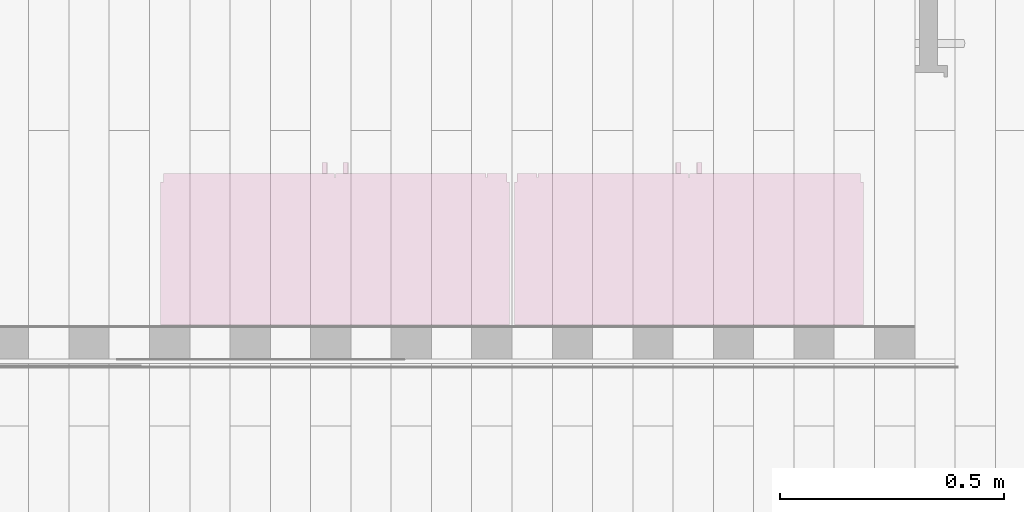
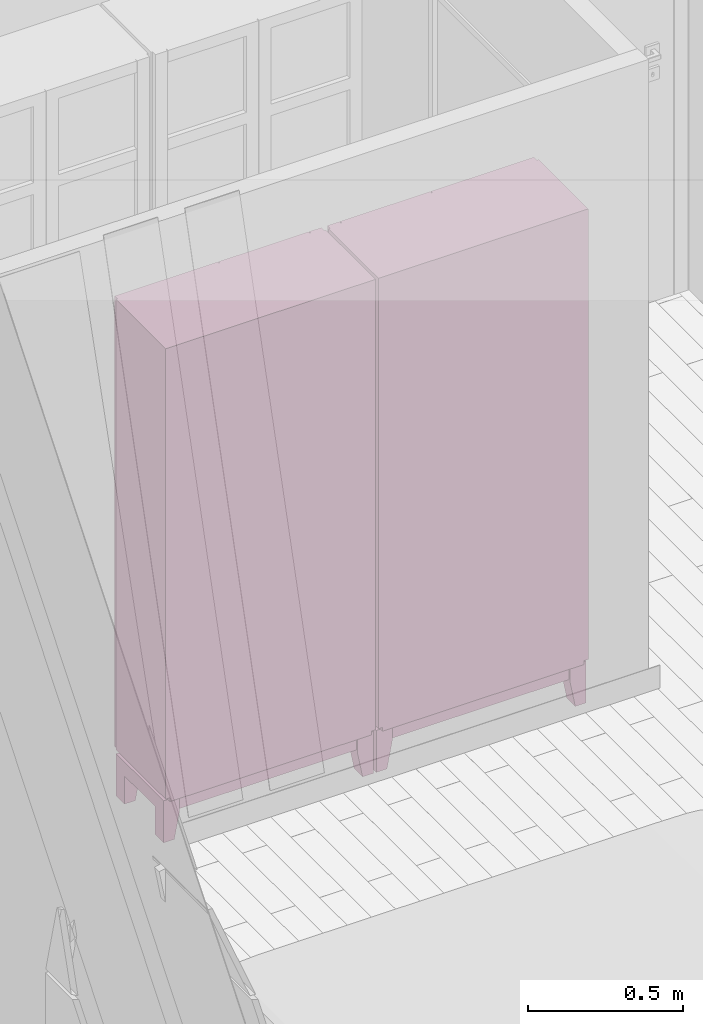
# One storey, part 56 of 61: 2 furnishings.
"""IFC2X3 building model written with IfcOpenShell, lengths in metres."""

from ifc_helpers import new_model, entity, si_unit, converted_unit, derived_unit, direction, frame, frame_2d, origin, origin_2d_with_axis, place, context, subcontext, project, spatial, polyline, rectangle, circle, outline, extrude, source, transform, mapped, material, material_list, type_object, type_shapes, element, save


model = new_model("IFC2X3")

# Units and contexts
model_context = context("Model", 3, precision=1e-05, world=origin(), true_north=direction((6.12303176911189e-17, 1.0)))
body_context = subcontext(model_context, "Body", "Model", "MODEL_VIEW")
ifc_project = project(units=[si_unit("LENGTHUNIT", "METRE"), si_unit("AREAUNIT", "SQUARE_METRE"), si_unit("VOLUMEUNIT", "CUBIC_METRE"), converted_unit("PLANEANGLEUNIT", "DEGREE", entity("IfcRatioMeasure", 0.0174532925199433), si_unit("PLANEANGLEUNIT", "RADIAN"), dimensions=[0, 0, 0, 0, 0, 0, 0]), si_unit("MASSUNIT", "GRAM", prefix="KILO"), derived_unit("MASSDENSITYUNIT", [(si_unit("MASSUNIT", "GRAM", prefix="KILO"), 1), (si_unit("LENGTHUNIT", "METRE"), -3)]), si_unit("TIMEUNIT", "SECOND"), si_unit("FREQUENCYUNIT", "HERTZ"), si_unit("THERMODYNAMICTEMPERATUREUNIT", "DEGREE_CELSIUS"), derived_unit("THERMALTRANSMITTANCEUNIT", [(si_unit("MASSUNIT", "GRAM", prefix="KILO"), 1), (si_unit("THERMODYNAMICTEMPERATUREUNIT", "KELVIN"), -1), (si_unit("TIMEUNIT", "SECOND"), -3)]), derived_unit("VOLUMETRICFLOWRATEUNIT", [(si_unit("LENGTHUNIT", "METRE"), 3), (si_unit("TIMEUNIT", "SECOND"), -1)]), si_unit("ELECTRICCURRENTUNIT", "AMPERE"), si_unit("ELECTRICVOLTAGEUNIT", "VOLT"), si_unit("POWERUNIT", "WATT"), si_unit("FORCEUNIT", "NEWTON", prefix="KILO"), si_unit("ILLUMINANCEUNIT", "LUX"), si_unit("LUMINOUSFLUXUNIT", "LUMEN"), si_unit("LUMINOUSINTENSITYUNIT", "CANDELA"), derived_unit("USERDEFINED", [(si_unit("MASSUNIT", "GRAM", prefix="KILO"), -1), (si_unit("LENGTHUNIT", "METRE"), -2), (si_unit("TIMEUNIT", "SECOND"), 3), (si_unit("LUMINOUSFLUXUNIT", "LUMEN"), 1)]), derived_unit("LINEARVELOCITYUNIT", [(si_unit("LENGTHUNIT", "METRE"), 1), (si_unit("TIMEUNIT", "SECOND"), -1)]), si_unit("PRESSUREUNIT", "PASCAL"), derived_unit("USERDEFINED", [(si_unit("LENGTHUNIT", "METRE"), -2), (si_unit("MASSUNIT", "GRAM", prefix="KILO"), 1), (si_unit("TIMEUNIT", "SECOND"), -2)])], contexts=[model_context])

# Site, building, storey
site_placement = place(None, origin())
site = spatial("IfcSite", under=ifc_project, at=site_placement, Name="Surface", CompositionType="ELEMENT")
building_placement = place(site_placement, origin())
building = spatial("IfcBuilding", under=site, at=building_placement, CompositionType="ELEMENT")
storey_placement = place(building_placement, frame((0.0, 0.0, 2.82)))
storey = spatial("IfcBuildingStorey", under=building, at=storey_placement, Name="ETAGE", CompositionType="ELEMENT", Elevation=2.82)

# Furnishings
ifc_material_1 = material(Name="Birch_horr")
ifc_material_2 = material(Name="Glass")
ifc_material_list_1 = material_list([ifc_material_1, ifc_material_2])
ifc_material_list_2 = material_list([ifc_material_1, ifc_material_2])
furniture_type_1 = type_object("IfcFurnitureType", Name="Allegro 7096", material=ifc_material_list_2)
shared_shape_1 = source(origin(), body_context, "Body", "SweptSolid", [
    extrude(rectangle(XDim=0.677999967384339, YDim=0.310000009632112, at=origin_2d_with_axis()), frame((0.0, 0.00500000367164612, 1.55400005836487)), (0.0, 0.0, 1.0), 0.0190000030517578),
    extrude(rectangle(XDim=0.677999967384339, YDim=0.310000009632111, at=origin_2d_with_axis()), frame((0.0, 0.00500000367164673, 1.20899996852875)), (0.0, 0.0, 1.0), 0.0190000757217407),
    extrude(rectangle(XDim=0.677999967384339, YDim=0.310000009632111, at=origin_2d_with_axis()), frame((0.0, 0.00500000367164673, 0.864000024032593)), (0.0, 0.0, 1.0), 0.0190000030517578),
    extrude(rectangle(XDim=0.677999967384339, YDim=0.310000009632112, at=origin_2d_with_axis()), frame((0.0, 0.00500000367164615, 0.519000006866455)), (0.0, 0.0, 1.0), 0.0190000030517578),
    extrude(outline(polyline([(-0.0320038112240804, -0.0780199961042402), (0.0279961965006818, -0.0780199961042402), (0.0279961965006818, -0.017920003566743), (0.00801522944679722, 0.0869799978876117), (-0.0320038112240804, 0.0869799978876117), (-0.0320038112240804, -0.0780199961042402)])), frame((-0.357996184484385, 0.090999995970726, 0.0869799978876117), z_axis=(0.0, 1.0, 0.0), x_axis=(1.0, 0.0, 0.0)), (0.0, 0.0, 1.0), 0.0550000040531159),
    extrude(outline(polyline([(-0.0780199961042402, -0.0320038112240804), (0.0869799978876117, -0.0320038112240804), (0.0869799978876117, 0.00801522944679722), (-0.017920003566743, 0.0279961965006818), (-0.0780199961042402, 0.0279961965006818), (-0.0780199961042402, -0.0320038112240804)])), frame((0.357996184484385, 0.090999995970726, 0.0869799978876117), z_axis=(0.0, 1.0, 0.0), x_axis=(0.0, 0.0, -1.0)), (0.0, 0.0, 1.0), 0.0550000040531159),
    extrude(outline(polyline([(-0.0320038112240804, -0.0780199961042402), (0.0279961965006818, -0.0780199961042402), (0.0279961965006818, -0.017920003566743), (0.00801522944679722, 0.0869799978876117), (-0.0320038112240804, 0.0869799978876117), (-0.0320038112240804, -0.0780199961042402)])), frame((-0.357996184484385, -0.160000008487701, 0.0869799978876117), z_axis=(0.0, 1.0, 0.0), x_axis=(1.0, 0.0, 0.0)), (0.0, 0.0, 1.0), 0.0550000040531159),
    extrude(outline(polyline([(-0.0780199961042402, -0.0320038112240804), (0.0869799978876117, -0.0320038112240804), (0.0869799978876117, 0.00801522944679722), (-0.017920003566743, 0.0279961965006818), (-0.0780199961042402, 0.0279961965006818), (-0.0780199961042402, -0.0320038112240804)])), frame((0.357996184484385, -0.160000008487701, 0.0869799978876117), z_axis=(0.0, 1.0, 0.0), x_axis=(0.0, 0.0, -1.0)), (0.0, 0.0, 1.0), 0.0550000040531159),
    extrude(rectangle(XDim=0.196000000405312, YDim=0.0299999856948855, at=frame_2d((-6.93889390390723e-18, 0.0), x_axis=(1.0, 0.0))), frame((0.375000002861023, -0.00700000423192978, 0.109999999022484), z_axis=(0.0, 0.0, 1.0), x_axis=(0.0, -1.0, 0.0)), (0.0, 0.0, 1.0), 0.054999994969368),
    extrude(rectangle(XDim=0.0299999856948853, YDim=0.196000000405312, at=origin_2d_with_axis()), frame((-0.375000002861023, -0.00700000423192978, 0.109999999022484), z_axis=(0.0, 0.0, 1.0), x_axis=(-1.0, 0.0, 0.0)), (0.0, 0.0, 1.0), 0.054999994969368),
    extrude(rectangle(XDim=0.659999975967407, YDim=0.03000001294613, at=origin_2d_with_axis()), frame((0.0, -0.145000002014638, 0.109999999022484), z_axis=(0.0, 0.0, 1.0), x_axis=(-1.0, 0.0, 0.0)), (0.0, 0.0, 1.0), 0.054999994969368),
    extrude(rectangle(XDim=0.659999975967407, YDim=0.0299999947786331, at=origin_2d_with_axis()), frame((0.0, 0.125999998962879, 0.109999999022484), z_axis=(0.0, 0.0, 1.0), x_axis=(-1.0, 0.0, 0.0)), (0.0, 0.0, 1.0), 0.054999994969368),
    extrude(rectangle(XDim=0.000999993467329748, YDim=0.679999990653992, at=frame_2d((1.69135538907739e-17, 0.0), x_axis=(1.0, 0.0))), frame((0.0, -0.160500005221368, 0.224000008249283), z_axis=(0.0, 0.0, 1.0), x_axis=(0.0, 1.0, 0.0)), (0.0, 0.0, 1.0), 1.68359997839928),
    extrude(rectangle(XDim=0.741999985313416, YDim=0.320000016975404, at=frame_2d((0.0, -1.38777878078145e-17), x_axis=(1.0, 0.0))), frame((0.0, 0.0, 1.93100001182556)), (0.0, 0.0, 1.0), 0.00900003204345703),
    extrude(rectangle(XDim=0.741999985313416, YDim=0.320000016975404, at=frame_2d((0.0, -1.38777878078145e-17), x_axis=(1.0, 0.0))), frame((0.0, 0.0, 0.18000000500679)), (0.0, 0.0, 1.0), 0.0190000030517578),
    extrude(rectangle(XDim=0.292999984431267, YDim=0.0189999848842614, at=frame_2d((-1.38777878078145e-17, 0.0), x_axis=(1.0, 0.0))), frame((0.190499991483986, -0.169500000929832, 0.18000000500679), z_axis=(0.0, 0.0, 1.0), x_axis=(-1.0, 0.0, 0.0)), (0.0, 0.0, 1.0), 0.0449999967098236),
    extrude(rectangle(XDim=0.292999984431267, YDim=0.0189999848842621, at=frame_2d((-1.38777878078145e-17, 1.73472347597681e-17), x_axis=(1.0, 0.0))), frame((0.190499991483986, -0.169500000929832, 0.525000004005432), z_axis=(0.0, 0.0, 1.0), x_axis=(-1.0, 0.0, 0.0)), (0.0, 0.0, 1.0), 0.0449999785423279),
    extrude(rectangle(XDim=0.292999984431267, YDim=0.0189999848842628, at=frame_2d((-1.38777878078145e-17, 1.73472347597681e-17), x_axis=(1.0, 0.0))), frame((0.190499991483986, -0.169500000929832, 0.87000002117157), z_axis=(0.0, 0.0, 1.0), x_axis=(-1.0, 0.0, 0.0)), (0.0, 0.0, 1.0), 0.0450000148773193),
    extrude(rectangle(XDim=0.292999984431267, YDim=0.0189999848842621, at=frame_2d((-1.38777878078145e-17, 1.73472347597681e-17), x_axis=(1.0, 0.0))), frame((0.190499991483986, -0.169500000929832, 1.21499996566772), z_axis=(0.0, 0.0, 1.0), x_axis=(-1.0, 0.0, 0.0)), (0.0, 0.0, 1.0), 0.0450000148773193),
    extrude(rectangle(XDim=0.292999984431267, YDim=0.0189999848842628, at=frame_2d((-1.38777878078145e-17, 1.73472347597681e-17), x_axis=(1.0, 0.0))), frame((0.190499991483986, -0.169500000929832, 1.55999998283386), z_axis=(0.0, 0.0, 1.0), x_axis=(-1.0, 0.0, 0.0)), (0.0, 0.0, 1.0), 0.0450000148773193),
    extrude(rectangle(XDim=0.292999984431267, YDim=0.0189999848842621, at=frame_2d((-1.38777878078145e-17, 0.0), x_axis=(1.0, 0.0))), frame((0.190499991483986, -0.169500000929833, 1.905), z_axis=(0.0, 0.0, 1.0), x_axis=(-1.0, 0.0, 0.0)), (0.0, 0.0, 1.0), 0.0450000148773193),
    extrude(rectangle(XDim=0.292999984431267, YDim=0.0189999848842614, at=frame_2d((1.38777878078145e-17, 0.0), x_axis=(1.0, 0.0))), frame((-0.192499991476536, -0.169500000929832, 0.18000000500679)), (0.0, 0.0, 1.0), 0.0449999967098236),
    extrude(rectangle(XDim=0.292999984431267, YDim=0.0189999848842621, at=frame_2d((1.38777878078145e-17, 0.0), x_axis=(1.0, 0.0))), frame((-0.192499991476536, -0.169500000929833, 1.905)), (0.0, 0.0, 1.0), 0.0450000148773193),
    extrude(rectangle(XDim=0.292999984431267, YDim=0.0189999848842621, at=frame_2d((1.38777878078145e-17, -1.73472347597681e-17), x_axis=(1.0, 0.0))), frame((-0.192499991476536, -0.169500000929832, 0.525000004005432)), (0.0, 0.0, 1.0), 0.0449999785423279),
    extrude(rectangle(XDim=0.292999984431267, YDim=0.0189999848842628, at=frame_2d((1.38777878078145e-17, -1.73472347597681e-17), x_axis=(1.0, 0.0))), frame((-0.192499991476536, -0.169500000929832, 0.87000002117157)), (0.0, 0.0, 1.0), 0.0450000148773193),
    extrude(rectangle(XDim=0.292999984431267, YDim=0.0189999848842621, at=frame_2d((1.38777878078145e-17, -1.73472347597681e-17), x_axis=(1.0, 0.0))), frame((-0.192499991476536, -0.169500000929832, 1.21499996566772)), (0.0, 0.0, 1.0), 0.0450000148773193),
    extrude(rectangle(XDim=0.292999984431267, YDim=0.0189999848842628, at=frame_2d((1.38777878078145e-17, -1.73472347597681e-17), x_axis=(1.0, 0.0))), frame((-0.192499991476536, -0.169500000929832, 1.55999998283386)), (0.0, 0.0, 1.0), 0.0450000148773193),
    extrude(rectangle(XDim=0.0450000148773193, YDim=0.0189999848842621, at=origin_2d_with_axis()), frame((0.361499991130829, -0.169500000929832, 0.18000000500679)), (0.0, 0.0, 1.0), 1.77000000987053),
    extrude(rectangle(XDim=0.0449999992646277, YDim=0.0189999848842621, at=origin_2d_with_axis()), frame((0.0234999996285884, -0.169500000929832, 0.18000000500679), z_axis=(0.0, 0.0, 1.0), x_axis=(-1.0, 0.0, 0.0)), (0.0, 0.0, 1.0), 1.77000000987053),
    extrude(rectangle(XDim=0.0189999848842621, YDim=0.0450000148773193, at=origin_2d_with_axis()), frame((-0.361499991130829, -0.169500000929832, 0.18000000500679), z_axis=(0.0, 0.0, 1.0), x_axis=(0.0, 1.0, 0.0)), (0.0, 0.0, 1.0), 1.77000000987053),
    extrude(rectangle(XDim=0.0449999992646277, YDim=0.0189999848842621, at=origin_2d_with_axis()), frame((-0.0234999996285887, -0.169500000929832, 0.18000000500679), z_axis=(0.0, 0.0, 1.0), x_axis=(-1.0, 0.0, 0.0)), (0.0, 0.0, 1.0), 1.77000000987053),
    extrude(circle(Radius=0.006, at=origin_2d_with_axis()), frame((0.0235209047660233, -0.203999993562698, 1.06501550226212), z_axis=(0.0, 1.0, 0.0), x_axis=(-1.0, 0.0, 0.0)), (0.0, 0.0, 1.0), 0.0250000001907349),
    extrude(circle(Radius=0.006, at=origin_2d_with_axis()), frame((-0.0235209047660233, -0.203999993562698, 1.06501550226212), z_axis=(0.0, 1.0, 0.0), x_axis=(1.0, 0.0, 0.0)), (0.0, 0.0, 1.0), 0.0250000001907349),
    extrude(rectangle(XDim=0.741999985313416, YDim=0.00500000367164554, at=origin_2d_with_axis()), frame((0.0, 0.157500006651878, 0.189999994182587)), (0.0, 0.0, 1.0), 1.75000004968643),
    extrude(rectangle(XDim=0.330000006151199, YDim=0.750000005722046, at=origin_2d_with_axis()), frame((0.0, -0.00499999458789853, 0.164999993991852), z_axis=(0.0, 0.0, 1.0), x_axis=(0.0, 1.0, 0.0)), (0.0, 0.0, 1.0), 0.0150000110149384),
    extrude(rectangle(XDim=0.330000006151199, YDim=0.741999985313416, at=origin_2d_with_axis()), frame((0.0, -0.00499999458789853, 1.94000004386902), z_axis=(0.0, 0.0, 1.0), x_axis=(0.0, 1.0, 0.0)), (0.0, 0.0, 1.0), 0.00999997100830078),
    extrude(rectangle(XDim=0.320000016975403, YDim=0.0190000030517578, at=origin_2d_with_axis()), frame((0.380499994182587, 0.0, 0.18000000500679), z_axis=(0.0, 0.0, 1.0), x_axis=(0.0, -1.0, 0.0)), (0.0, 0.0, 1.0), 1.77000000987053),
    extrude(rectangle(XDim=0.0190000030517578, YDim=0.320000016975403, at=origin_2d_with_axis()), frame((-0.380499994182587, 0.0, 0.18000000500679), z_axis=(0.0, 0.0, 1.0), x_axis=(-1.0, 0.0, 0.0)), (0.0, 0.0, 1.0), 1.77000000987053),
])
type_shapes(furniture_type_1, [shared_shape_1])
furnishing_1_placement = place(storey_placement, frame((85.8264023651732, 84.9726850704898, 0.0), z_axis=(0.0, 0.0, 1.0), x_axis=(-1.0, 0.0, 0.0)))
element("IfcFurnishingElement", 1, at=furnishing_1_placement, inside=storey, type_object=furniture_type_1, material=ifc_material_list_1, Name="Allegro 7096:Allegro 7096", ObjectType="Allegro 7096:Allegro 7096", context=body_context, shape_type="MappedRepresentation", body=[
    mapped(shared_shape_1, transform((0.0, 0.0, 0.0), scale=1.0)),
])
ifc_material_list_3 = material_list([ifc_material_1, ifc_material_2])
ifc_material_list_4 = material_list([ifc_material_1, ifc_material_2])
furniture_type_2 = type_object("IfcFurnitureType", Name="Allegro 7096", material=ifc_material_list_4)
shared_shape_2 = source(origin(), body_context, "Body", "SweptSolid", [
    extrude(rectangle(XDim=0.310000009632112, YDim=0.677999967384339, at=frame_2d((0.0, 2.77555756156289e-17), x_axis=(1.0, 0.0))), frame((0.0, -0.00500000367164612, 1.55400005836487), z_axis=(0.0, 0.0, 1.0), x_axis=(0.0, -1.0, 0.0)), (0.0, 0.0, 1.0), 0.0190000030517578),
    extrude(rectangle(XDim=0.310000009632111, YDim=0.677999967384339, at=frame_2d((0.0, 2.77555756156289e-17), x_axis=(1.0, 0.0))), frame((0.0, -0.00500000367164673, 1.20899996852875), z_axis=(0.0, 0.0, 1.0), x_axis=(0.0, -1.0, 0.0)), (0.0, 0.0, 1.0), 0.0190000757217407),
    extrude(rectangle(XDim=0.310000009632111, YDim=0.677999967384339, at=frame_2d((0.0, 2.77555756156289e-17), x_axis=(1.0, 0.0))), frame((0.0, -0.00500000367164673, 0.864000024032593), z_axis=(0.0, 0.0, 1.0), x_axis=(0.0, -1.0, 0.0)), (0.0, 0.0, 1.0), 0.0190000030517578),
    extrude(rectangle(XDim=0.310000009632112, YDim=0.677999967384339, at=frame_2d((0.0, 2.77555756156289e-17), x_axis=(1.0, 0.0))), frame((0.0, -0.00500000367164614, 0.519000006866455), z_axis=(0.0, 0.0, 1.0), x_axis=(0.0, -1.0, 0.0)), (0.0, 0.0, 1.0), 0.0190000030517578),
    extrude(outline(polyline([(-0.0320038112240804, -0.0780199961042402), (0.0279961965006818, -0.0780199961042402), (0.0279961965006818, -0.017920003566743), (0.00801522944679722, 0.0869799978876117), (-0.0320038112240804, 0.0869799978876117), (-0.0320038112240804, -0.0780199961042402)])), frame((-0.357996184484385, -0.146000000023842, 0.0869799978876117), z_axis=(0.0, 1.0, 0.0), x_axis=(1.0, 0.0, 0.0)), (0.0, 0.0, 1.0), 0.0550000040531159),
    extrude(outline(polyline([(-0.0780199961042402, -0.0320038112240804), (0.0869799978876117, -0.0320038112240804), (0.0869799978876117, 0.00801522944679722), (-0.017920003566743, 0.0279961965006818), (-0.0780199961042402, 0.0279961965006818), (-0.0780199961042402, -0.0320038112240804)])), frame((0.357996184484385, -0.146000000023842, 0.0869799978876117), z_axis=(0.0, 1.0, 0.0), x_axis=(0.0, 0.0, -1.0)), (0.0, 0.0, 1.0), 0.0550000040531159),
    extrude(outline(polyline([(-0.0320038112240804, -0.0780199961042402), (0.0279961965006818, -0.0780199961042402), (0.0279961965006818, -0.017920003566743), (0.00801522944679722, 0.0869799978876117), (-0.0320038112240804, 0.0869799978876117), (-0.0320038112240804, -0.0780199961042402)])), frame((-0.357996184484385, 0.105000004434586, 0.0869799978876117), z_axis=(0.0, 1.0, 0.0), x_axis=(1.0, 0.0, 0.0)), (0.0, 0.0, 1.0), 0.0550000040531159),
    extrude(outline(polyline([(-0.0780199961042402, -0.0320038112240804), (0.0869799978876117, -0.0320038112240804), (0.0869799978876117, 0.00801522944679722), (-0.017920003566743, 0.0279961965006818), (-0.0780199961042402, 0.0279961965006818), (-0.0780199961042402, -0.0320038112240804)])), frame((0.357996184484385, 0.105000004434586, 0.0869799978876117), z_axis=(0.0, 1.0, 0.0), x_axis=(0.0, 0.0, -1.0)), (0.0, 0.0, 1.0), 0.0550000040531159),
    extrude(rectangle(XDim=0.0299999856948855, YDim=0.196000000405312, at=origin_2d_with_axis()), frame((0.375000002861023, 0.00700000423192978, 0.109999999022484)), (0.0, 0.0, 1.0), 0.054999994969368),
    extrude(rectangle(XDim=0.196000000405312, YDim=0.0299999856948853, at=origin_2d_with_axis()), frame((-0.375000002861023, 0.00700000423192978, 0.109999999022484), z_axis=(0.0, 0.0, 1.0), x_axis=(0.0, 1.0, 0.0)), (0.0, 0.0, 1.0), 0.054999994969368),
    extrude(rectangle(XDim=0.03000001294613, YDim=0.659999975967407, at=origin_2d_with_axis()), frame((0.0, 0.145000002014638, 0.109999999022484), z_axis=(0.0, 0.0, 1.0), x_axis=(0.0, 1.0, 0.0)), (0.0, 0.0, 1.0), 0.054999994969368),
    extrude(rectangle(XDim=0.0299999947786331, YDim=0.659999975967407, at=origin_2d_with_axis()), frame((0.0, -0.125999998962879, 0.109999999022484), z_axis=(0.0, 0.0, 1.0), x_axis=(0.0, 1.0, 0.0)), (0.0, 0.0, 1.0), 0.054999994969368),
    extrude(rectangle(XDim=0.679999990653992, YDim=0.000999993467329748, at=frame_2d((0.0, 1.69135538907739e-17), x_axis=(1.0, 0.0))), frame((0.0, 0.160500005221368, 0.224000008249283), z_axis=(0.0, 0.0, 1.0), x_axis=(-1.0, 0.0, 0.0)), (0.0, 0.0, 1.0), 1.68359997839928),
    extrude(rectangle(XDim=0.320000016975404, YDim=0.741999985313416, at=origin_2d_with_axis()), frame((0.0, 0.0, 1.93100001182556), z_axis=(0.0, 0.0, 1.0), x_axis=(0.0, -1.0, 0.0)), (0.0, 0.0, 1.0), 0.00900003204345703),
    extrude(rectangle(XDim=0.320000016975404, YDim=0.741999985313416, at=origin_2d_with_axis()), frame((0.0, 0.0, 0.18000000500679), z_axis=(0.0, 0.0, 1.0), x_axis=(0.0, -1.0, 0.0)), (0.0, 0.0, 1.0), 0.0190000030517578),
    extrude(rectangle(XDim=0.0189999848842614, YDim=0.292999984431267, at=frame_2d((0.0, -1.38777878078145e-17), x_axis=(1.0, 0.0))), frame((0.190499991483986, 0.169500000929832, 0.18000000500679), z_axis=(0.0, 0.0, 1.0), x_axis=(0.0, 1.0, 0.0)), (0.0, 0.0, 1.0), 0.0449999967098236),
    extrude(rectangle(XDim=0.0189999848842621, YDim=0.292999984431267, at=frame_2d((-1.64798730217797e-17, -1.38777878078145e-17), x_axis=(1.0, 0.0))), frame((0.190499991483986, 0.169500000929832, 0.525000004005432), z_axis=(0.0, 0.0, 1.0), x_axis=(0.0, 1.0, 0.0)), (0.0, 0.0, 1.0), 0.0449999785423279),
    extrude(rectangle(XDim=0.0189999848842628, YDim=0.292999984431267, at=frame_2d((-1.64798730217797e-17, -1.38777878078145e-17), x_axis=(1.0, 0.0))), frame((0.190499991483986, 0.169500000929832, 0.87000002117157), z_axis=(0.0, 0.0, 1.0), x_axis=(0.0, 1.0, 0.0)), (0.0, 0.0, 1.0), 0.0450000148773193),
    extrude(rectangle(XDim=0.0189999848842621, YDim=0.292999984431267, at=frame_2d((-1.64798730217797e-17, -1.38777878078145e-17), x_axis=(1.0, 0.0))), frame((0.190499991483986, 0.169500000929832, 1.21499996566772), z_axis=(0.0, 0.0, 1.0), x_axis=(0.0, 1.0, 0.0)), (0.0, 0.0, 1.0), 0.0450000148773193),
    extrude(rectangle(XDim=0.0189999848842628, YDim=0.292999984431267, at=frame_2d((-1.64798730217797e-17, -1.38777878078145e-17), x_axis=(1.0, 0.0))), frame((0.190499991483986, 0.169500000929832, 1.55999998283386), z_axis=(0.0, 0.0, 1.0), x_axis=(0.0, 1.0, 0.0)), (0.0, 0.0, 1.0), 0.0450000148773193),
    extrude(rectangle(XDim=0.0189999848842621, YDim=0.292999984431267, at=frame_2d((0.0, -1.38777878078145e-17), x_axis=(1.0, 0.0))), frame((0.190499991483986, 0.169500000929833, 1.905), z_axis=(0.0, 0.0, 1.0), x_axis=(0.0, 1.0, 0.0)), (0.0, 0.0, 1.0), 0.0450000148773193),
    extrude(rectangle(XDim=0.0189999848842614, YDim=0.292999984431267, at=frame_2d((0.0, 1.38777878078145e-17), x_axis=(1.0, 0.0))), frame((-0.192499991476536, 0.169500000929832, 0.18000000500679), z_axis=(0.0, 0.0, 1.0), x_axis=(0.0, -1.0, 0.0)), (0.0, 0.0, 1.0), 0.0449999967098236),
    extrude(rectangle(XDim=0.0189999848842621, YDim=0.292999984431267, at=frame_2d((0.0, 1.38777878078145e-17), x_axis=(1.0, 0.0))), frame((-0.192499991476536, 0.169500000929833, 1.905), z_axis=(0.0, 0.0, 1.0), x_axis=(0.0, -1.0, 0.0)), (0.0, 0.0, 1.0), 0.0450000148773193),
    extrude(rectangle(XDim=0.0189999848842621, YDim=0.292999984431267, at=frame_2d((1.64798730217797e-17, 1.38777878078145e-17), x_axis=(1.0, 0.0))), frame((-0.192499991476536, 0.169500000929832, 0.525000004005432), z_axis=(0.0, 0.0, 1.0), x_axis=(0.0, -1.0, 0.0)), (0.0, 0.0, 1.0), 0.0449999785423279),
    extrude(rectangle(XDim=0.0189999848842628, YDim=0.292999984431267, at=frame_2d((1.64798730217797e-17, 1.38777878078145e-17), x_axis=(1.0, 0.0))), frame((-0.192499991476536, 0.169500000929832, 0.87000002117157), z_axis=(0.0, 0.0, 1.0), x_axis=(0.0, -1.0, 0.0)), (0.0, 0.0, 1.0), 0.0450000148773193),
    extrude(rectangle(XDim=0.0189999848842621, YDim=0.292999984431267, at=frame_2d((1.64798730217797e-17, 1.38777878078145e-17), x_axis=(1.0, 0.0))), frame((-0.192499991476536, 0.169500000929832, 1.21499996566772), z_axis=(0.0, 0.0, 1.0), x_axis=(0.0, -1.0, 0.0)), (0.0, 0.0, 1.0), 0.0450000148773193),
    extrude(rectangle(XDim=0.0189999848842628, YDim=0.292999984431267, at=frame_2d((1.64798730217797e-17, 1.38777878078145e-17), x_axis=(1.0, 0.0))), frame((-0.192499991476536, 0.169500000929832, 1.55999998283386), z_axis=(0.0, 0.0, 1.0), x_axis=(0.0, -1.0, 0.0)), (0.0, 0.0, 1.0), 0.0450000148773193),
    extrude(rectangle(XDim=0.0189999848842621, YDim=0.0450000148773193, at=origin_2d_with_axis()), frame((0.361499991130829, 0.169500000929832, 0.18000000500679), z_axis=(0.0, 0.0, 1.0), x_axis=(0.0, -1.0, 0.0)), (0.0, 0.0, 1.0), 1.77000000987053),
    extrude(rectangle(XDim=0.0189999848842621, YDim=0.0449999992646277, at=origin_2d_with_axis()), frame((0.0234999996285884, 0.169500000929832, 0.18000000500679), z_axis=(0.0, 0.0, 1.0), x_axis=(0.0, 1.0, 0.0)), (0.0, 0.0, 1.0), 1.77000000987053),
    extrude(rectangle(XDim=0.0450000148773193, YDim=0.0189999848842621, at=origin_2d_with_axis()), frame((-0.361499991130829, 0.169500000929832, 0.18000000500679), z_axis=(0.0, 0.0, 1.0), x_axis=(-1.0, 0.0, 0.0)), (0.0, 0.0, 1.0), 1.77000000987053),
    extrude(rectangle(XDim=0.0189999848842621, YDim=0.0449999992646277, at=origin_2d_with_axis()), frame((-0.0234999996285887, 0.169500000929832, 0.18000000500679), z_axis=(0.0, 0.0, 1.0), x_axis=(0.0, 1.0, 0.0)), (0.0, 0.0, 1.0), 1.77000000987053),
    extrude(circle(Radius=0.006, at=origin_2d_with_axis()), frame((0.0235209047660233, 0.178999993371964, 1.06501550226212), z_axis=(0.0, 1.0, 0.0), x_axis=(-1.0, 0.0, 0.0)), (0.0, 0.0, 1.0), 0.0250000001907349),
    extrude(circle(Radius=0.006, at=origin_2d_with_axis()), frame((-0.0235209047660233, 0.178999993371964, 1.06501550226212), z_axis=(0.0, 1.0, 0.0), x_axis=(1.0, 0.0, 0.0)), (0.0, 0.0, 1.0), 0.0250000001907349),
    extrude(rectangle(XDim=0.00500000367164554, YDim=0.741999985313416, at=frame_2d((3.38271077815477e-17, 0.0), x_axis=(1.0, 0.0))), frame((0.0, -0.157500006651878, 0.189999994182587), z_axis=(0.0, 0.0, 1.0), x_axis=(0.0, -1.0, 0.0)), (0.0, 0.0, 1.0), 1.75000004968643),
    extrude(rectangle(XDim=0.750000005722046, YDim=0.330000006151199, at=origin_2d_with_axis()), frame((0.0, 0.00499999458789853, 0.164999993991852), z_axis=(0.0, 0.0, 1.0), x_axis=(-1.0, 0.0, 0.0)), (0.0, 0.0, 1.0), 0.0150000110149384),
    extrude(rectangle(XDim=0.741999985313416, YDim=0.330000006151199, at=origin_2d_with_axis()), frame((0.0, 0.00499999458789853, 1.94000004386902), z_axis=(0.0, 0.0, 1.0), x_axis=(-1.0, 0.0, 0.0)), (0.0, 0.0, 1.0), 0.00999997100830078),
    extrude(rectangle(XDim=0.0190000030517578, YDim=0.320000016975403, at=origin_2d_with_axis()), frame((0.380499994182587, 0.0, 0.18000000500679)), (0.0, 0.0, 1.0), 1.77000000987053),
    extrude(rectangle(XDim=0.320000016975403, YDim=0.0190000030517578, at=origin_2d_with_axis()), frame((-0.380499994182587, 0.0, 0.18000000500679), z_axis=(0.0, 0.0, 1.0), x_axis=(0.0, 1.0, 0.0)), (0.0, 0.0, 1.0), 1.77000000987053),
])
type_shapes(furniture_type_2, [shared_shape_2])
furnishing_2_placement = place(storey_placement, frame((85.0357773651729, 84.9726850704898, 0.0)))
element("IfcFurnishingElement", 2, at=furnishing_2_placement, inside=storey, type_object=furniture_type_2, material=ifc_material_list_3, Name="Allegro 7096:Allegro 7096", ObjectType="Allegro 7096:Allegro 7096", context=body_context, shape_type="MappedRepresentation", body=[
    mapped(shared_shape_2, transform((0.0, 0.0, 0.0), scale=1.0)),
])

save(model, "model.ifc")
